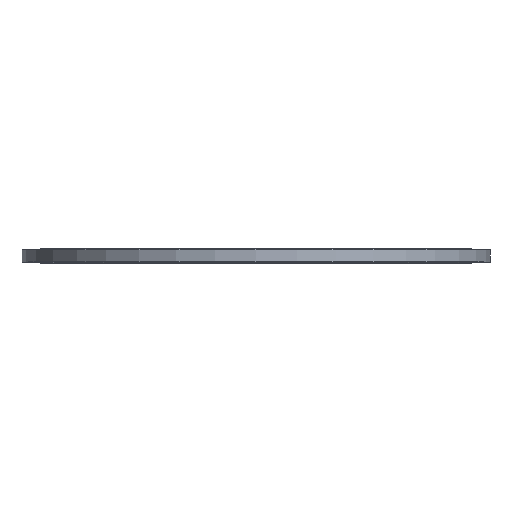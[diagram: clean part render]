
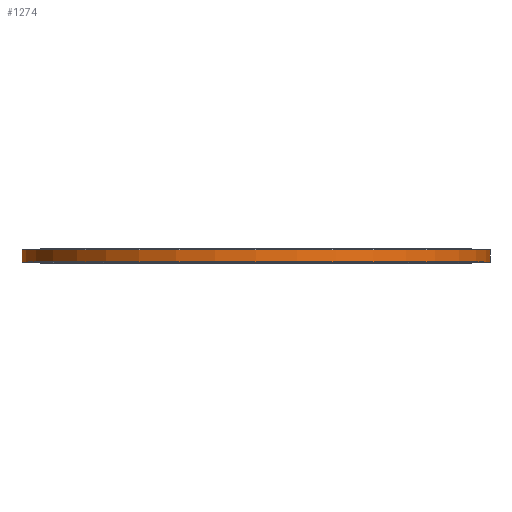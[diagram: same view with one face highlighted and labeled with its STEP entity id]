
A CAD part, top view. The second image highlights one B-rep face of the part: STEP entity #1274.
In plain terms, the highlighted cylindrical face has radius 615 mm (diameter 1230 mm), a full revolution.
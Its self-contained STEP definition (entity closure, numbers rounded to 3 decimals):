
#246=ORIENTED_EDGE('',*,*,#432,.T.);
#247=ORIENTED_EDGE('',*,*,#433,.T.);
#432=EDGE_CURVE('',#552,#552,#672,.F.);
#433=EDGE_CURVE('',#553,#553,#673,.T.);
#552=VERTEX_POINT('',#2240);
#553=VERTEX_POINT('',#2242);
#672=CIRCLE('',#1490,615.);
#673=CIRCLE('',#1491,615.);
#846=EDGE_LOOP('',(#246));
#847=EDGE_LOOP('',(#247));
#1086=FACE_BOUND('',#846,.T.);
#1087=FACE_BOUND('',#847,.T.);
#1190=CYLINDRICAL_SURFACE('',#1489,615.);
#1274=ADVANCED_FACE('',(#1086,#1087),#1190,.T.);
#1489=AXIS2_PLACEMENT_3D('',#2238,#1895,#1896);
#1490=AXIS2_PLACEMENT_3D('',#2239,#1897,#1898);
#1491=AXIS2_PLACEMENT_3D('',#2241,#1899,#1900);
#1895=DIRECTION('',(0.,-1.,0.));
#1896=DIRECTION('',(0.,0.,-1.));
#1897=DIRECTION('',(0.,1.,0.));
#1898=DIRECTION('',(0.,0.,1.));
#1899=DIRECTION('',(0.,1.,0.));
#1900=DIRECTION('',(0.,0.,1.));
#2238=CARTESIAN_POINT('',(0.,36.,0.));
#2239=CARTESIAN_POINT('',(0.,34.,0.));
#2240=CARTESIAN_POINT('',(0.,34.,615.));
#2241=CARTESIAN_POINT('',(0.,2.,0.));
#2242=CARTESIAN_POINT('',(0.,2.,615.));
